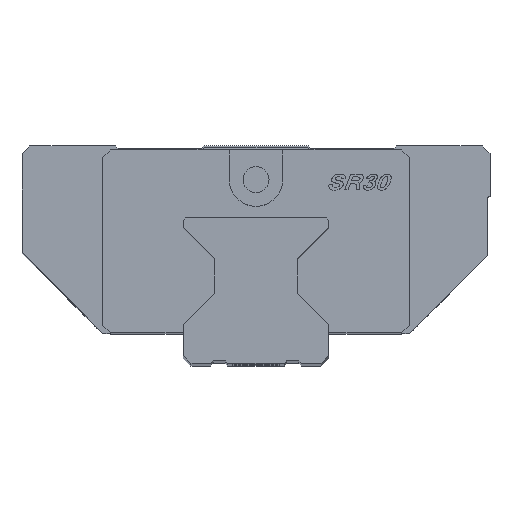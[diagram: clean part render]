
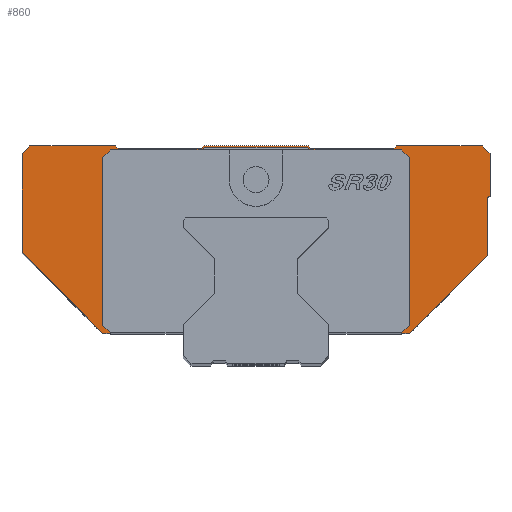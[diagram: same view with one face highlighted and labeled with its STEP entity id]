
A CAD part, top view. The second image highlights one B-rep face of the part: STEP entity #860.
In plain terms, the highlighted planar face has unit normal (0, 0, 1).
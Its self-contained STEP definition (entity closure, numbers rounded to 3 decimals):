
#860=ADVANCED_FACE('',(#1228),#1107,.T.);
#1107=PLANE('',#5489);
#1228=FACE_OUTER_BOUND('',#1536,.T.);
#1536=EDGE_LOOP('',(#2429,#2430,#2431,#2432,#2433,#2434,#2435,#2436,#2437,
#2438,#2439,#2440,#2441,#2442,#2443,#2444,#2445,#2446,#2447,#2448,#2449,
#2450,#2451,#2452,#2453,#2454,#2455,#2456,#2457,#2458));
#2429=ORIENTED_EDGE('',*,*,#3928,.T.);
#2430=ORIENTED_EDGE('',*,*,#3915,.T.);
#2431=ORIENTED_EDGE('',*,*,#3906,.T.);
#2432=ORIENTED_EDGE('',*,*,#3900,.T.);
#2433=ORIENTED_EDGE('',*,*,#4074,.T.);
#2434=ORIENTED_EDGE('',*,*,#4072,.T.);
#2435=ORIENTED_EDGE('',*,*,#4066,.T.);
#2436=ORIENTED_EDGE('',*,*,#4064,.T.);
#2437=ORIENTED_EDGE('',*,*,#4062,.T.);
#2438=ORIENTED_EDGE('',*,*,#4060,.T.);
#2439=ORIENTED_EDGE('',*,*,#4056,.T.);
#2440=ORIENTED_EDGE('',*,*,#4075,.T.);
#2441=ORIENTED_EDGE('',*,*,#4076,.T.);
#2442=ORIENTED_EDGE('',*,*,#4077,.T.);
#2443=ORIENTED_EDGE('',*,*,#4078,.T.);
#2444=ORIENTED_EDGE('',*,*,#4079,.T.);
#2445=ORIENTED_EDGE('',*,*,#3876,.T.);
#2446=ORIENTED_EDGE('',*,*,#3860,.T.);
#2447=ORIENTED_EDGE('',*,*,#3852,.T.);
#2448=ORIENTED_EDGE('',*,*,#4012,.F.);
#2449=ORIENTED_EDGE('',*,*,#4007,.F.);
#2450=ORIENTED_EDGE('',*,*,#4002,.F.);
#2451=ORIENTED_EDGE('',*,*,#3981,.F.);
#2452=ORIENTED_EDGE('',*,*,#4080,.F.);
#2453=ORIENTED_EDGE('',*,*,#4081,.F.);
#2454=ORIENTED_EDGE('',*,*,#4082,.F.);
#2455=ORIENTED_EDGE('',*,*,#3977,.F.);
#2456=ORIENTED_EDGE('',*,*,#4083,.F.);
#2457=ORIENTED_EDGE('',*,*,#3964,.F.);
#2458=ORIENTED_EDGE('',*,*,#3963,.F.);
#3327=VERTEX_POINT('',#7441);
#3328=VERTEX_POINT('',#7443);
#3334=VERTEX_POINT('',#7459);
#3345=VERTEX_POINT('',#7490);
#3364=VERTEX_POINT('',#7537);
#3365=VERTEX_POINT('',#7539);
#3368=VERTEX_POINT('',#7550);
#3374=VERTEX_POINT('',#7568);
#3382=VERTEX_POINT('',#7593);
#3408=VERTEX_POINT('',#7659);
#3409=VERTEX_POINT('',#7663);
#3418=VERTEX_POINT('',#7687);
#3419=VERTEX_POINT('',#7689);
#3422=VERTEX_POINT('',#7695);
#3423=VERTEX_POINT('',#7697);
#3436=VERTEX_POINT('',#7738);
#3440=VERTEX_POINT('',#7750);
#3467=VERTEX_POINT('',#7850);
#3468=VERTEX_POINT('',#7852);
#3471=VERTEX_POINT('',#7860);
#3472=VERTEX_POINT('',#7864);
#3473=VERTEX_POINT('',#7868);
#3474=VERTEX_POINT('',#7872);
#3479=VERTEX_POINT('',#7884);
#3480=VERTEX_POINT('',#7890);
#3481=VERTEX_POINT('',#7892);
#3482=VERTEX_POINT('',#7894);
#3483=VERTEX_POINT('',#7896);
#3484=VERTEX_POINT('',#7899);
#3485=VERTEX_POINT('',#7901);
#3852=EDGE_CURVE('',#3328,#3327,#4456,.T.);
#3860=EDGE_CURVE('',#3334,#3328,#4460,.T.);
#3876=EDGE_CURVE('',#3345,#3334,#4474,.T.);
#3900=EDGE_CURVE('',#3365,#3364,#4491,.T.);
#3906=EDGE_CURVE('',#3368,#3365,#4497,.T.);
#3915=EDGE_CURVE('',#3374,#3368,#4506,.T.);
#3928=EDGE_CURVE('',#3382,#3374,#4514,.T.);
#3963=EDGE_CURVE('',#3382,#3408,#4548,.T.);
#3964=EDGE_CURVE('',#3408,#3409,#4549,.T.);
#3977=EDGE_CURVE('',#3418,#3419,#4558,.T.);
#3981=EDGE_CURVE('',#3422,#3423,#4562,.T.);
#4002=EDGE_CURVE('',#3423,#3436,#4580,.T.);
#4007=EDGE_CURVE('',#3436,#3440,#4583,.T.);
#4012=EDGE_CURVE('',#3440,#3327,#4586,.T.);
#4056=EDGE_CURVE('',#3468,#3467,#4620,.T.);
#4060=EDGE_CURVE('',#3471,#3468,#4622,.T.);
#4062=EDGE_CURVE('',#3472,#3471,#4624,.T.);
#4064=EDGE_CURVE('',#3473,#3472,#4626,.T.);
#4066=EDGE_CURVE('',#3474,#3473,#4628,.T.);
#4072=EDGE_CURVE('',#3479,#3474,#4630,.T.);
#4074=EDGE_CURVE('',#3364,#3479,#4632,.T.);
#4075=EDGE_CURVE('',#3467,#3480,#4633,.T.);
#4076=EDGE_CURVE('',#3480,#3481,#4634,.T.);
#4077=EDGE_CURVE('',#3481,#3482,#4635,.T.);
#4078=EDGE_CURVE('',#3482,#3483,#4636,.T.);
#4079=EDGE_CURVE('',#3483,#3345,#4637,.T.);
#4080=EDGE_CURVE('',#3484,#3422,#4638,.T.);
#4081=EDGE_CURVE('',#3485,#3484,#4639,.T.);
#4082=EDGE_CURVE('',#3419,#3485,#4640,.T.);
#4083=EDGE_CURVE('',#3409,#3418,#4641,.T.);
#4456=LINE('',#7442,#4887);
#4460=LINE('',#7458,#4891);
#4474=LINE('',#7489,#4905);
#4491=LINE('',#7538,#4922);
#4497=LINE('',#7549,#4928);
#4506=LINE('',#7567,#4937);
#4514=LINE('',#7592,#4945);
#4548=LINE('',#7660,#4979);
#4549=LINE('',#7662,#4980);
#4558=LINE('',#7688,#4989);
#4562=LINE('',#7696,#4993);
#4580=LINE('',#7739,#5011);
#4583=LINE('',#7749,#5014);
#4586=LINE('',#7759,#5017);
#4620=LINE('',#7851,#5051);
#4622=LINE('',#7859,#5053);
#4624=LINE('',#7863,#5055);
#4626=LINE('',#7867,#5057);
#4628=LINE('',#7871,#5059);
#4630=LINE('',#7883,#5061);
#4632=LINE('',#7887,#5063);
#4633=LINE('',#7889,#5064);
#4634=LINE('',#7891,#5065);
#4635=LINE('',#7893,#5066);
#4636=LINE('',#7895,#5067);
#4637=LINE('',#7897,#5068);
#4638=LINE('',#7898,#5069);
#4639=LINE('',#7900,#5070);
#4640=LINE('',#7902,#5071);
#4641=LINE('',#7903,#5072);
#4887=VECTOR('',#5849,1.);
#4891=VECTOR('',#5865,1.);
#4905=VECTOR('',#5891,1.);
#4922=VECTOR('',#5932,1.);
#4928=VECTOR('',#5942,1.);
#4937=VECTOR('',#5957,1.);
#4945=VECTOR('',#5983,1.);
#4979=VECTOR('',#6031,1.);
#4980=VECTOR('',#6034,1.);
#4989=VECTOR('',#6057,1.);
#4993=VECTOR('',#6061,1.);
#5011=VECTOR('',#6101,1.);
#5014=VECTOR('',#6112,1.);
#5017=VECTOR('',#6123,1.);
#5051=VECTOR('',#6223,1.);
#5053=VECTOR('',#6231,1.);
#5055=VECTOR('',#6235,1.);
#5057=VECTOR('',#6239,1.);
#5059=VECTOR('',#6243,1.);
#5061=VECTOR('',#6255,1.);
#5063=VECTOR('',#6259,1.);
#5064=VECTOR('',#6262,1.);
#5065=VECTOR('',#6263,1.);
#5066=VECTOR('',#6264,1.);
#5067=VECTOR('',#6265,1.);
#5068=VECTOR('',#6266,1.);
#5069=VECTOR('',#6267,1.);
#5070=VECTOR('',#6268,1.);
#5071=VECTOR('',#6269,1.);
#5072=VECTOR('',#6270,1.);
#5489=AXIS2_PLACEMENT_3D('',#7904,#6271,#6272);
#5849=DIRECTION('',(1.,0.,0.));
#5865=DIRECTION('',(0.707,-0.707,0.));
#5891=DIRECTION('',(0.,-1.,0.));
#5932=DIRECTION('',(0.707,0.707,0.));
#5942=DIRECTION('',(0.,1.,0.));
#5957=DIRECTION('',(0.707,0.707,0.));
#5983=DIRECTION('',(1.,0.,0.));
#6031=DIRECTION('',(0.707,0.707,0.));
#6034=DIRECTION('',(0.,1.,0.));
#6057=DIRECTION('',(-1.,0.,0.));
#6061=DIRECTION('',(-1.,0.,0.));
#6101=DIRECTION('',(-0.707,-0.707,0.));
#6112=DIRECTION('',(0.,-1.,0.));
#6123=DIRECTION('',(0.707,-0.707,0.));
#6223=DIRECTION('',(-1.,0.,0.));
#6231=DIRECTION('',(-0.707,0.707,0.));
#6235=DIRECTION('',(-1.,0.,0.));
#6239=DIRECTION('',(-0.707,-0.707,0.));
#6243=DIRECTION('',(-1.,0.,0.));
#6255=DIRECTION('',(-0.707,0.707,0.));
#6259=DIRECTION('',(0.,1.,0.));
#6262=DIRECTION('',(-0.707,-0.707,0.));
#6263=DIRECTION('',(-1.,0.,0.));
#6264=DIRECTION('',(-0.707,0.707,0.));
#6265=DIRECTION('',(-1.,0.,0.));
#6266=DIRECTION('',(-0.707,-0.707,0.));
#6267=DIRECTION('',(-0.707,-0.707,0.));
#6268=DIRECTION('',(-1.,0.,0.));
#6269=DIRECTION('',(-0.707,0.707,0.));
#6270=DIRECTION('',(-0.707,0.707,0.));
#6271=DIRECTION('',(0.,0.,1.));
#6272=DIRECTION('',(1.,0.,0.));
#7441=CARTESIAN_POINT('',(-28.,6.,46.5));
#7442=CARTESIAN_POINT('',(-29.5,6.,46.5));
#7443=CARTESIAN_POINT('',(-29.5,6.,46.5));
#7458=CARTESIAN_POINT('',(-45.,21.5,46.5));
#7459=CARTESIAN_POINT('',(-45.,21.5,46.5));
#7489=CARTESIAN_POINT('',(-45.,40.5,46.5));
#7490=CARTESIAN_POINT('',(-45.,40.5,46.5));
#7537=CARTESIAN_POINT('',(45.,32.5,46.5));
#7538=CARTESIAN_POINT('',(44.5,32.,46.5));
#7539=CARTESIAN_POINT('',(44.5,32.,46.5));
#7549=CARTESIAN_POINT('',(44.5,21.,46.5));
#7550=CARTESIAN_POINT('',(44.5,21.,46.5));
#7567=CARTESIAN_POINT('',(29.5,6.,46.5));
#7568=CARTESIAN_POINT('',(29.5,6.,46.5));
#7592=CARTESIAN_POINT('',(28.,6.,46.5));
#7593=CARTESIAN_POINT('',(28.,6.,46.5));
#7659=CARTESIAN_POINT('',(29.5,7.5,46.5));
#7660=CARTESIAN_POINT('',(28.,6.,46.5));
#7662=CARTESIAN_POINT('',(29.5,7.5,46.5));
#7663=CARTESIAN_POINT('',(29.5,39.7,46.5));
#7687=CARTESIAN_POINT('',(28.,41.2,46.5));
#7688=CARTESIAN_POINT('',(28.,41.2,46.5));
#7689=CARTESIAN_POINT('',(10.376,41.2,46.5));
#7695=CARTESIAN_POINT('',(-10.376,41.2,46.5));
#7696=CARTESIAN_POINT('',(-10.376,41.2,46.5));
#7697=CARTESIAN_POINT('',(-28.,41.2,46.5));
#7738=CARTESIAN_POINT('',(-29.5,39.7,46.5));
#7739=CARTESIAN_POINT('',(-28.,41.2,46.5));
#7749=CARTESIAN_POINT('',(-29.5,39.7,46.5));
#7750=CARTESIAN_POINT('',(-29.5,7.5,46.5));
#7759=CARTESIAN_POINT('',(-29.5,7.5,46.5));
#7850=CARTESIAN_POINT('',(-10.,42.,46.5));
#7851=CARTESIAN_POINT('',(10.,42.,46.5));
#7852=CARTESIAN_POINT('',(10.,42.,46.5));
#7859=CARTESIAN_POINT('',(10.5,41.5,46.5));
#7860=CARTESIAN_POINT('',(10.5,41.5,46.5));
#7863=CARTESIAN_POINT('',(26.5,41.5,46.5));
#7864=CARTESIAN_POINT('',(26.5,41.5,46.5));
#7867=CARTESIAN_POINT('',(27.,42.,46.5));
#7868=CARTESIAN_POINT('',(27.,42.,46.5));
#7871=CARTESIAN_POINT('',(43.5,42.,46.5));
#7872=CARTESIAN_POINT('',(43.5,42.,46.5));
#7883=CARTESIAN_POINT('',(45.,40.5,46.5));
#7884=CARTESIAN_POINT('',(45.,40.5,46.5));
#7887=CARTESIAN_POINT('',(45.,32.5,46.5));
#7889=CARTESIAN_POINT('',(-10.,42.,46.5));
#7890=CARTESIAN_POINT('',(-10.5,41.5,46.5));
#7891=CARTESIAN_POINT('',(-10.5,41.5,46.5));
#7892=CARTESIAN_POINT('',(-26.5,41.5,46.5));
#7893=CARTESIAN_POINT('',(-26.5,41.5,46.5));
#7894=CARTESIAN_POINT('',(-27.,42.,46.5));
#7895=CARTESIAN_POINT('',(-27.,42.,46.5));
#7896=CARTESIAN_POINT('',(-43.5,42.,46.5));
#7897=CARTESIAN_POINT('',(-43.5,42.,46.5));
#7898=CARTESIAN_POINT('',(-9.876,41.7,46.5));
#7899=CARTESIAN_POINT('',(-9.876,41.7,46.5));
#7900=CARTESIAN_POINT('',(9.876,41.7,46.5));
#7901=CARTESIAN_POINT('',(9.876,41.7,46.5));
#7902=CARTESIAN_POINT('',(10.376,41.2,46.5));
#7903=CARTESIAN_POINT('',(29.5,39.7,46.5));
#7904=CARTESIAN_POINT('',(-49.5,4.2,46.5));
